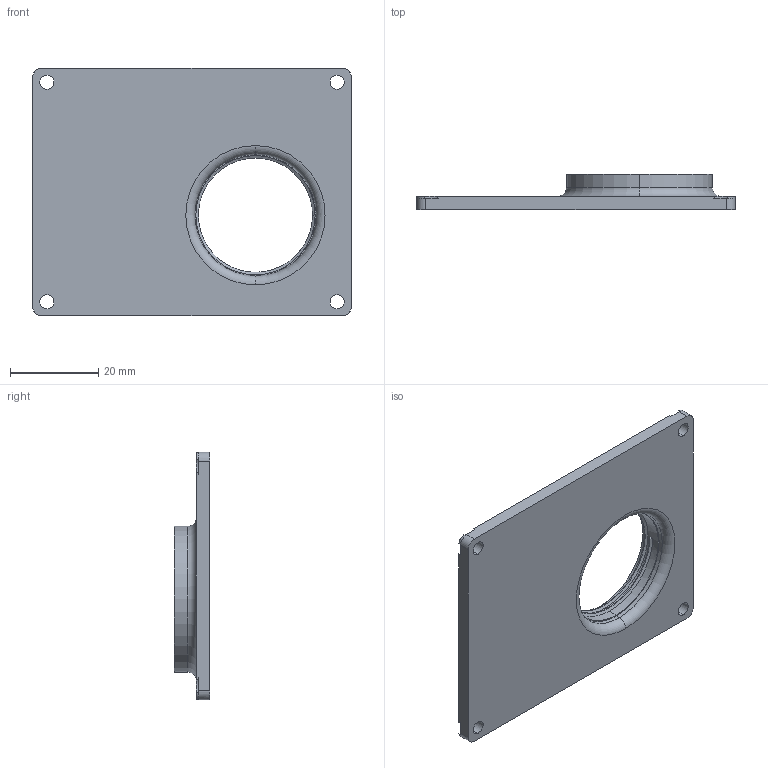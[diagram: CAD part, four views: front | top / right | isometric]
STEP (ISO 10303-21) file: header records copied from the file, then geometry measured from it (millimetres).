
FILE_DESCRIPTION (( 'STEP AP214' ), '1' );
FILE_NAME ('俋褲2.STEP', '2024-11-10T02:11:11', ( '' ), ( '' ), 'SwSTEP 2.0', 'SolidWorks 2024', '' );
FILE_SCHEMA (( 'AUTOMOTIVE_DESIGN' ));
Length unit declared in the file: millimetre
Products named in the file (1): 外壳2
Bounding box: 72 x 8 x 56 mm (x, y, z)
Volume: 11620.1 mm3; surface area: 8847.6 mm2
Topology: 1 solids, 1 shells, 56 faces, 150 edges, 98 vertices
Faces by surface type: cylinder 31, plane 18, torus 4, bspline 3
Entity records: 2026 total; most frequent: CARTESIAN_POINT 557, DIRECTION 318, ORIENTED_EDGE 300, EDGE_CURVE 150, AXIS2_PLACEMENT_3D 127, VERTEX_POINT 98, CIRCLE 73, EDGE_LOOP 68
